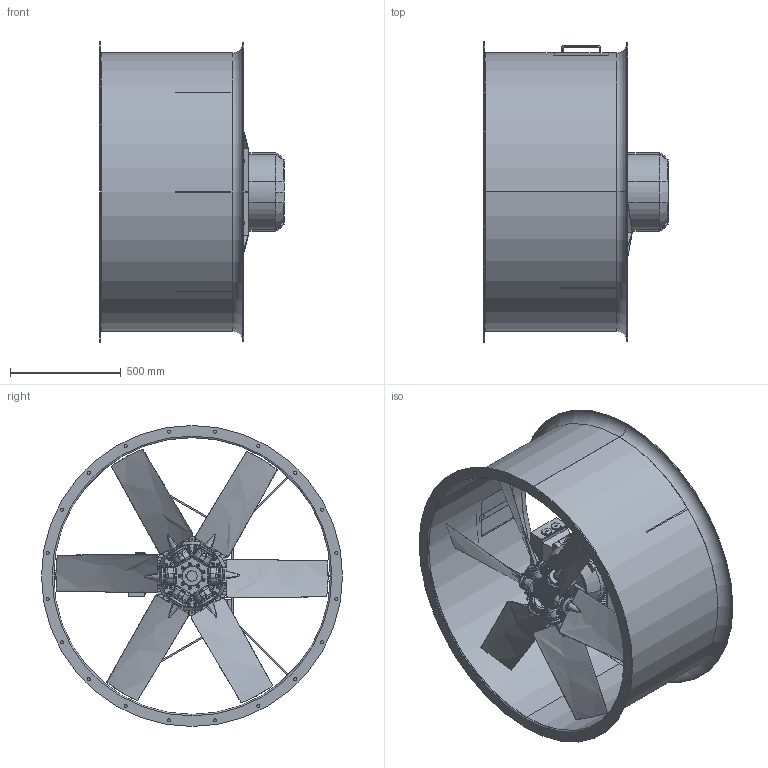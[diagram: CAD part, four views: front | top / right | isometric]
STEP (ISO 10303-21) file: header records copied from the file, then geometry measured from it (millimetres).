
FILE_DESCRIPTION (( 'STEP AP214' ), '1' );
FILE_NAME ('Assem_BRV 1250_KF_L=650_mot. 180_kort utf.STEP', '2020-09-16T10:30:29', ( '' ), ( '' ), 'SwSTEP 2.0', 'SolidWorks 2016', '' );
FILE_SCHEMA (( 'AUTOMOTIVE_DESIGN' ));
Length unit declared in the file: millimetre
Products named in the file (35): M8_C1-1 Bolt And Nuts - 1230_6-6_35_PAG_6WL_48_14_112_A-123080_5; M8_C1-2 Bolt And Nuts - 1230_6-6_35_PAG_6WL_48_14_112_A-123080_5; M8_C1-1 Bolt And Nuts - 1230_6-6_35_PAG_6WL_48_14_112_A-123080; 27060704606 - 1230_6-6_35_PAG_6WL_48_14_112_A-123080; C1-2-Bolt-Y62008350020_1230_6-6_35_PAG_6WL_48_14_112_A-123080; C1-1-Nuts-Y63208000020_1230_6-6_35_PAG_6WL_48_14_112_A-123080; M8_C1-2 Bolt And Nuts - 1230_6-6_35_PAG_6WL_48_14_112_A-123080_2; M8_C1-2 Bolt And Nuts - 1230_6-6_35_PAG_6WL_48_14_112_A-123080_4; Boss Bolt And Nuts - 1230_6-6_35_PAG_6WL_48_14_112_A-123080_9; Boss Bolt And Nuts - 1230_6-6_35_PAG_6WL_48_14_112_A-123080_2; BRV 1250 Insp.luke 200x200; C1-2-Nuts-Y63208000020_1230_6-6_35_PAG_6WL_48_14_112_A-123080; Boss Bolt And Nuts - 1230_6-6_35_PAG_6WL_48_14_112_A-123080_4; C1-1-Bolt-Y62008350020_1230_6-6_35_PAG_6WL_48_14_112_A-123080; BB-Nut-_1230_6-6_35_PAG_6WL_48_14_112_A-123080; M8_C1-1 Bolt And Nuts - 1230_6-6_35_PAG_6WL_48_14_112_A-123080_2; M8_C1-1 Bolt And Nuts - 1230_6-6_35_PAG_6WL_48_14_112_A-123080_4; Boss Bolt And Nuts - 1230_6-6_35_PAG_6WL_48_14_112_A-123080; M8_C1-2 Bolt And Nuts - 1230_6-6_35_PAG_6WL_48_14_112_A-123080_3; 1TZ9 C 180L-4 22kW B3 IE3; Assem_BRV 1250_KF_L=650_mot. 180_kort utf; BB-Bolt-Y62008450008_1230_6-6_35_PAG_6WL_48_14_112_A-123080; M8_C1-1 Bolt And Nuts - 1230_6-6_35_PAG_6WL_48_14_112_A-123080_3; 27000711806 - 1230_6-6_35_PAG_6WL_48_14_112_A-123080; M8_C1-1 Bolt And Nuts - 1230_6-6_35_PAG_6WL_48_14_112_A-123080_6; 1230_6-6_35_PAG_6WL_48_14_112_A-123080; 16700200043 - 1230_6-6_35_PAG_6WL_48_14_112_A-123080_Right; M8_C1-2 Bolt And Nuts - 1230_6-6_35_PAG_6WL_48_14_112_A-123080; Boss Bolt And Nuts - 1230_6-6_35_PAG_6WL_48_14_112_A-123080_5; BRV 1250_hus_FF_L=650_mot. 180_kort utf; Boss Bolt And Nuts - 1230_6-6_35_PAG_6WL_48_14_112_A-123080_7; Boss Bolt And Nuts - 1230_6-6_35_PAG_6WL_48_14_112_A-123080_3; M8_C1-2 Bolt And Nuts - 1230_6-6_35_PAG_6WL_48_14_112_A-123080_6; Boss Bolt And Nuts - 1230_6-6_35_PAG_6WL_48_14_112_A-123080_8; Boss Bolt And Nuts - 1230_6-6_35_PAG_6WL_48_14_112_A-123080_6
Assembly tree (76 placements, depth 4):
  Assem_BRV 1250_KF_L=650_mot. 180_kort utf
    BRV 1250_hus_FF_L=650_mot. 180_kort utf
    1TZ9 C 180L-4 22kW B3 IE3
    1230_6-6_35_PAG_6WL_48_14_112_A-123080
      27060704606 - 1230_6-6_35_PAG_6WL_48_14_112_A-123080  x2
      16700200043 - 1230_6-6_35_PAG_6WL_48_14_112_A-123080_Right  x6
      27000711806 - 1230_6-6_35_PAG_6WL_48_14_112_A-123080
      Boss Bolt And Nuts - 1230_6-6_35_PAG_6WL_48_14_112_A-123080
        BB-Bolt-Y62008450008_1230_6-6_35_PAG_6WL_48_14_112_A-123080
        BB-Nut-_1230_6-6_35_PAG_6WL_48_14_112_A-123080
      M8_C1-1 Bolt And Nuts - 1230_6-6_35_PAG_6WL_48_14_112_A-123080
        C1-1-Bolt-Y62008350020_1230_6-6_35_PAG_6WL_48_14_112_A-123080
        C1-1-Nuts-Y63208000020_1230_6-6_35_PAG_6WL_48_14_112_A-123080
      M8_C1-2 Bolt And Nuts - 1230_6-6_35_PAG_6WL_48_14_112_A-123080
        C1-2-Bolt-Y62008350020_1230_6-6_35_PAG_6WL_48_14_112_A-123080
        C1-2-Nuts-Y63208000020_1230_6-6_35_PAG_6WL_48_14_112_A-123080
      Boss Bolt And Nuts - 1230_6-6_35_PAG_6WL_48_14_112_A-123080_2
        BB-Bolt-Y62008450008_1230_6-6_35_PAG_6WL_48_14_112_A-123080
        BB-Nut-_1230_6-6_35_PAG_6WL_48_14_112_A-123080
      Boss Bolt And Nuts - 1230_6-6_35_PAG_6WL_48_14_112_A-123080_3
        BB-Bolt-Y62008450008_1230_6-6_35_PAG_6WL_48_14_112_A-123080
        BB-Nut-_1230_6-6_35_PAG_6WL_48_14_112_A-123080
      Boss Bolt And Nuts - 1230_6-6_35_PAG_6WL_48_14_112_A-123080_4
        BB-Bolt-Y62008450008_1230_6-6_35_PAG_6WL_48_14_112_A-123080
        BB-Nut-_1230_6-6_35_PAG_6WL_48_14_112_A-123080
      Boss Bolt And Nuts - 1230_6-6_35_PAG_6WL_48_14_112_A-123080_5
        BB-Bolt-Y62008450008_1230_6-6_35_PAG_6WL_48_14_112_A-123080
        BB-Nut-_1230_6-6_35_PAG_6WL_48_14_112_A-123080
      Boss Bolt And Nuts - 1230_6-6_35_PAG_6WL_48_14_112_A-123080_6
        BB-Bolt-Y62008450008_1230_6-6_35_PAG_6WL_48_14_112_A-123080
        BB-Nut-_1230_6-6_35_PAG_6WL_48_14_112_A-123080
      Boss Bolt And Nuts - 1230_6-6_35_PAG_6WL_48_14_112_A-123080_7
        BB-Bolt-Y62008450008_1230_6-6_35_PAG_6WL_48_14_112_A-123080
        BB-Nut-_1230_6-6_35_PAG_6WL_48_14_112_A-123080
      Boss Bolt And Nuts - 1230_6-6_35_PAG_6WL_48_14_112_A-123080_8
        BB-Bolt-Y62008450008_1230_6-6_35_PAG_6WL_48_14_112_A-123080
        BB-Nut-_1230_6-6_35_PAG_6WL_48_14_112_A-123080
      Boss Bolt And Nuts - 1230_6-6_35_PAG_6WL_48_14_112_A-123080_9
        BB-Bolt-Y62008450008_1230_6-6_35_PAG_6WL_48_14_112_A-123080
        BB-Nut-_1230_6-6_35_PAG_6WL_48_14_112_A-123080
      M8_C1-1 Bolt And Nuts - 1230_6-6_35_PAG_6WL_48_14_112_A-123080_2
        C1-1-Bolt-Y62008350020_1230_6-6_35_PAG_6WL_48_14_112_A-123080
        C1-1-Nuts-Y63208000020_1230_6-6_35_PAG_6WL_48_14_112_A-123080
      M8_C1-1 Bolt And Nuts - 1230_6-6_35_PAG_6WL_48_14_112_A-123080_3
        C1-1-Bolt-Y62008350020_1230_6-6_35_PAG_6WL_48_14_112_A-123080
        C1-1-Nuts-Y63208000020_1230_6-6_35_PAG_6WL_48_14_112_A-123080
      M8_C1-1 Bolt And Nuts - 1230_6-6_35_PAG_6WL_48_14_112_A-123080_4
        C1-1-Bolt-Y62008350020_1230_6-6_35_PAG_6WL_48_14_112_A-123080
        C1-1-Nuts-Y63208000020_1230_6-6_35_PAG_6WL_48_14_112_A-123080
      M8_C1-1 Bolt And Nuts - 1230_6-6_35_PAG_6WL_48_14_112_A-123080_5
        C1-1-Bolt-Y62008350020_1230_6-6_35_PAG_6WL_48_14_112_A-123080
        C1-1-Nuts-Y63208000020_1230_6-6_35_PAG_6WL_48_14_112_A-123080
      M8_C1-1 Bolt And Nuts - 1230_6-6_35_PAG_6WL_48_14_112_A-123080_6
        C1-1-Bolt-Y62008350020_1230_6-6_35_PAG_6WL_48_14_112_A-123080
        C1-1-Nuts-Y63208000020_1230_6-6_35_PAG_6WL_48_14_112_A-123080
      M8_C1-2 Bolt And Nuts - 1230_6-6_35_PAG_6WL_48_14_112_A-123080_2
        C1-2-Bolt-Y62008350020_1230_6-6_35_PAG_6WL_48_14_112_A-123080
        C1-2-Nuts-Y63208000020_1230_6-6_35_PAG_6WL_48_14_112_A-123080
      M8_C1-2 Bolt And Nuts - 1230_6-6_35_PAG_6WL_48_14_112_A-123080_3
        C1-2-Bolt-Y62008350020_1230_6-6_35_PAG_6WL_48_14_112_A-123080
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Bounding box: 832.5 x 1360 x 1360 mm (x, y, z)
Volume: 75937166.7 mm3; surface area: 11032234.8 mm2
Topology: 59 solids, 59 shells, 3568 faces, 8879 edges, 5334 vertices
Faces by surface type: bspline 1328, plane 1044, cone 595, cylinder 585, torus 16
Entity records: 84205 total; most frequent: CARTESIAN_POINT 43366, ORIENTED_EDGE 9174, DIRECTION 7141, EDGE_CURVE 4587, VERTEX_POINT 2859, AXIS2_PLACEMENT_3D 2676, EDGE_LOOP 1974, ADVANCED_FACE 1794
